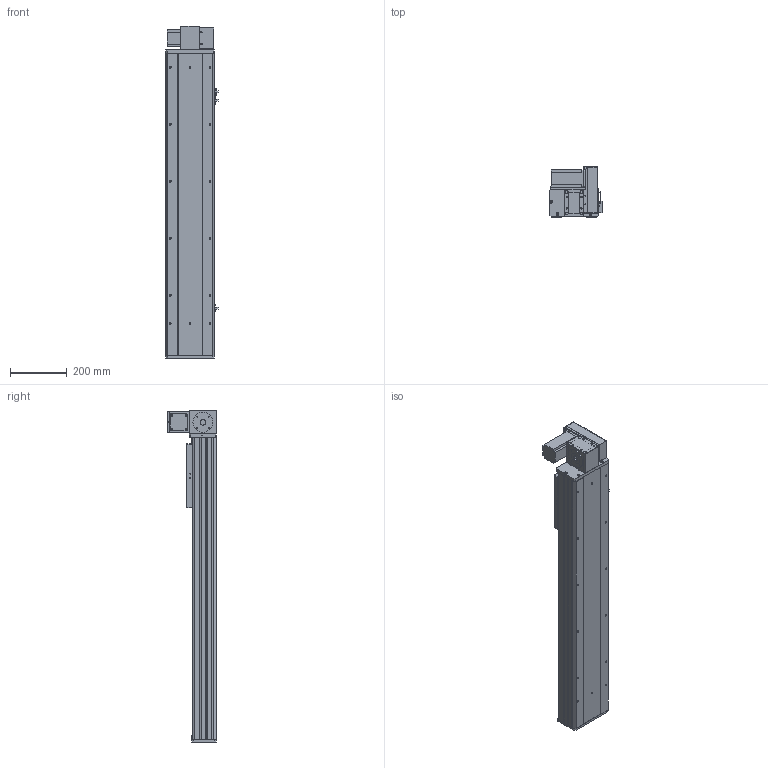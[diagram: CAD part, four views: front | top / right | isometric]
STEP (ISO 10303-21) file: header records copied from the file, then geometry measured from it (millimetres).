
FILE_DESCRIPTION (( 'STEP AP203' ), '1' );
FILE_NAME ('Y170CB-D105-S750-UR-P400W.STEP', '2020-02-20T03:59:31', ( '微软用户' ), ( '微软中国' ), 'SwSTEP 2.0', 'SolidWorks 2017', '' );
FILE_SCHEMA (( 'CONFIG_CONTROL_DESIGN' ));
Length unit declared in the file: millimetre
Products named in the file (18): 70CB-詩湍--; san松下电机400不带刹车----; Y100-135俋离換覜ん--; 70CB-掛极-; Y170CB-陔俋离換覜結え---; --70CB --喘謫眊楊擘啣-; Y1埴倛裔; 70CB-耜裔啣-; 17B-耜蚾蟀諉啣----; 70C--詩湍揤踡え-; 00B-俋欶BM--163; 70CB--耜裔; 70B喘謫眊----; 70C-雄赽釱-奻-; B-源倛裔啣; Y170CB-D105-S750-UR-P400W; 0C--雄赽釱俋欶-170; 0B-萇儂楊擘啣
Assembly tree (21 placements, depth 2):
  Y170CB-D105-S750-UR-P400W
    B-源倛裔啣
    0B-萇儂楊擘啣
    san松下电机400不带刹车----
    70CB-掛极-
    --70CB --喘謫眊楊擘啣-
    70CB-耜裔啣-  x2
    70C--詩湍揤踡え-  x2
    70CB--耜裔
    70C-雄赽釱-奻-
    0C--雄赽釱俋欶-170
    70CB-詩湍--
    Y100-135俋离換覜ん--  x3
    Y170CB-陔俋离換覜結え---
    Y1埴倛裔
    17B-耜蚾蟀諉啣----
    00B-俋欶BM--163
    70B喘謫眊----
Bounding box: 183.5 x 174 x 1166 mm (x, y, z)
Volume: 5554906.3 mm3; surface area: 1985482.6 mm2
Topology: 21 solids, 21 shells, 999 faces, 2669 edges, 1770 vertices
Faces by surface type: cylinder 513, plane 462, cone 24
Entity records: 31744 total; most frequent: CARTESIAN_POINT 5796, DIRECTION 5162, ORIENTED_EDGE 4820, EDGE_CURVE 2410, AXIS2_PLACEMENT_3D 1888, VERTEX_POINT 1600, LINE 1386, VECTOR 1386
